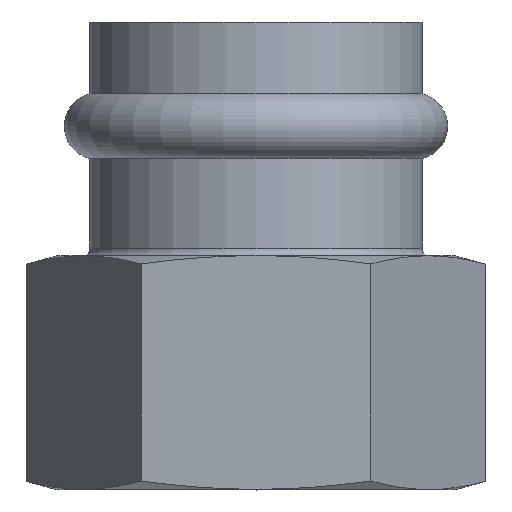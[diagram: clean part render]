
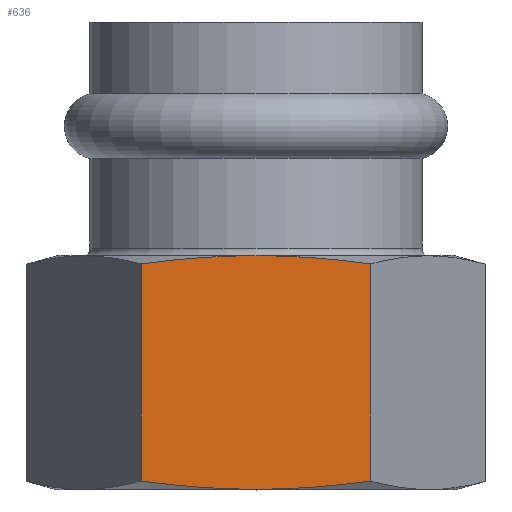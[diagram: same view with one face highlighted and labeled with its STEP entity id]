
A CAD part, top view. The second image highlights one B-rep face of the part: STEP entity #636.
In plain terms, the highlighted planar face has unit normal (0, 0, 1).
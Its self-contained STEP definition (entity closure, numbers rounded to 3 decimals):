
#15=(
BOUNDED_CURVE()
B_SPLINE_CURVE(2,(#1108,#1109,#1110),.UNSPECIFIED.,.F.,.F.)
B_SPLINE_CURVE_WITH_KNOTS((3,3),(1.169,2.661),
 .UNSPECIFIED.)
CURVE()
GEOMETRIC_REPRESENTATION_ITEM()
RATIONAL_B_SPLINE_CURVE((1.061,1.069,1.))
REPRESENTATION_ITEM('')
);
#16=(
BOUNDED_CURVE()
B_SPLINE_CURVE(2,(#1113,#1114,#1115),.UNSPECIFIED.,.F.,.F.)
B_SPLINE_CURVE_WITH_KNOTS((3,3),(2.661,4.153),
 .UNSPECIFIED.)
CURVE()
GEOMETRIC_REPRESENTATION_ITEM()
RATIONAL_B_SPLINE_CURVE((1.,1.069,1.061))
REPRESENTATION_ITEM('')
);
#17=(
BOUNDED_CURVE()
B_SPLINE_CURVE(2,(#1117,#1118,#1119),.UNSPECIFIED.,.F.,.F.)
B_SPLINE_CURVE_WITH_KNOTS((3,3),(1.169,2.661),
 .UNSPECIFIED.)
CURVE()
GEOMETRIC_REPRESENTATION_ITEM()
RATIONAL_B_SPLINE_CURVE((1.061,1.069,1.))
REPRESENTATION_ITEM('')
);
#18=(
BOUNDED_CURVE()
B_SPLINE_CURVE(2,(#1122,#1123,#1124),.UNSPECIFIED.,.F.,.F.)
B_SPLINE_CURVE_WITH_KNOTS((3,3),(2.661,4.153),
 .UNSPECIFIED.)
CURVE()
GEOMETRIC_REPRESENTATION_ITEM()
RATIONAL_B_SPLINE_CURVE((1.,1.069,1.061))
REPRESENTATION_ITEM('')
);
#48=PLANE('',#745);
#71=LINE('',#1112,#90);
#72=LINE('',#1121,#91);
#90=VECTOR('',#919,10.);
#91=VECTOR('',#920,10.);
#135=FACE_OUTER_BOUND('',#179,.T.);
#179=EDGE_LOOP('',(#515,#516,#517,#518,#519,#520));
#284=VERTEX_POINT('',#1057);
#295=VERTEX_POINT('',#1086);
#303=VERTEX_POINT('',#1107);
#304=VERTEX_POINT('',#1111);
#305=VERTEX_POINT('',#1116);
#306=VERTEX_POINT('',#1120);
#379=EDGE_CURVE('',#303,#284,#15,.T.);
#380=EDGE_CURVE('',#303,#304,#71,.T.);
#381=EDGE_CURVE('',#295,#304,#16,.T.);
#382=EDGE_CURVE('',#305,#295,#17,.T.);
#383=EDGE_CURVE('',#306,#305,#72,.T.);
#384=EDGE_CURVE('',#284,#306,#18,.T.);
#515=ORIENTED_EDGE('',*,*,#379,.F.);
#516=ORIENTED_EDGE('',*,*,#380,.T.);
#517=ORIENTED_EDGE('',*,*,#381,.F.);
#518=ORIENTED_EDGE('',*,*,#382,.F.);
#519=ORIENTED_EDGE('',*,*,#383,.F.);
#520=ORIENTED_EDGE('',*,*,#384,.F.);
#636=ADVANCED_FACE('',(#135),#48,.T.);
#745=AXIS2_PLACEMENT_3D('',#1106,#917,#918);
#917=DIRECTION('center_axis',(0.,0.,
1.));
#918=DIRECTION('ref_axis',(-1.,0.,0.));
#919=DIRECTION('',(0.,-1.,0.));
#920=DIRECTION('',(0.,-1.,0.));
#1057=CARTESIAN_POINT('',(0.,-27.,23.));
#1086=CARTESIAN_POINT('',(0.,-54.,23.));
#1106=CARTESIAN_POINT('Origin',(13.279,-12.,23.));
#1107=CARTESIAN_POINT('',(-13.279,-27.953,23.));
#1108=CARTESIAN_POINT('Ctrl Pts',(-13.279,-27.953,23.));
#1109=CARTESIAN_POINT('Ctrl Pts',(-6.163,-27.,23.));
#1110=CARTESIAN_POINT('Ctrl Pts',(0.,-27.,23.));
#1111=CARTESIAN_POINT('',(-13.279,-53.047,23.));
#1112=CARTESIAN_POINT('',(-13.279,-12.,23.));
#1113=CARTESIAN_POINT('Ctrl Pts',(0.,-54.,23.));
#1114=CARTESIAN_POINT('Ctrl Pts',(-6.163,-54.,23.));
#1115=CARTESIAN_POINT('Ctrl Pts',(-13.279,-53.047,23.));
#1116=CARTESIAN_POINT('',(13.279,-53.047,23.));
#1117=CARTESIAN_POINT('Ctrl Pts',(13.279,-53.047,23.));
#1118=CARTESIAN_POINT('Ctrl Pts',(6.163,-54.,23.));
#1119=CARTESIAN_POINT('Ctrl Pts',(0.,-54.,23.));
#1120=CARTESIAN_POINT('',(13.279,-27.953,23.));
#1121=CARTESIAN_POINT('',(13.279,-12.,23.));
#1122=CARTESIAN_POINT('Ctrl Pts',(0.,-27.,23.));
#1123=CARTESIAN_POINT('Ctrl Pts',(6.163,-27.,23.));
#1124=CARTESIAN_POINT('Ctrl Pts',(13.279,-27.953,23.));
